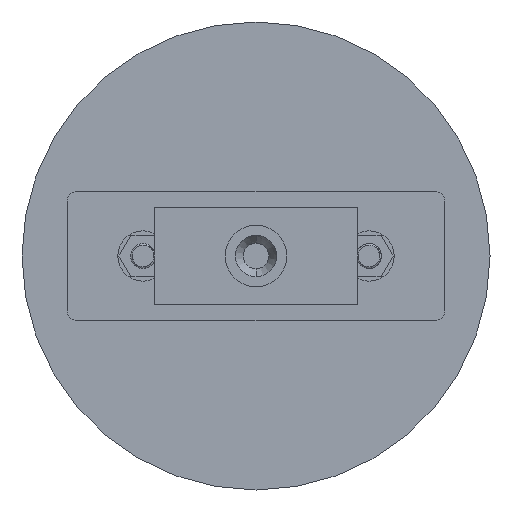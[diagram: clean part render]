
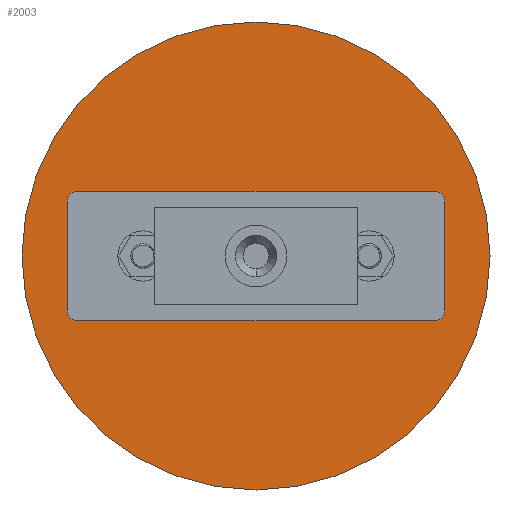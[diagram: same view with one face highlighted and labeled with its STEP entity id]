
A CAD part, front view. The second image highlights one B-rep face of the part: STEP entity #2003.
In plain terms, the highlighted planar face has unit normal (0, -1, 0).
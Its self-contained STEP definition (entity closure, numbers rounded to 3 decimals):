
#123 = CIRCLE ( 'NONE', #10612, 9. ) ;
#161 = DIRECTION ( 'NONE',  ( 0., 0., 1. ) ) ;
#592 = DIRECTION ( 'NONE',  ( 0., 0., 1. ) ) ;
#1090 = CARTESIAN_POINT ( 'NONE',  ( -35., 166.5, -6. ) ) ;
#1117 = PLANE ( 'NONE',  #6519 ) ;
#1668 = VERTEX_POINT ( 'NONE', #2072 ) ;
#1920 = DIRECTION ( 'NONE',  ( 0., -1., 0. ) ) ;
#2003 = ADVANCED_FACE ( 'NONE', ( #18571, #10283, #6165, #2021 ), #1117, .F. ) ;
#2021 = FACE_OUTER_BOUND ( 'NONE', #3116, .T. ) ;
#2072 = CARTESIAN_POINT ( 'NONE',  ( 0., 166.5, 9. ) ) ;
#2094 = CARTESIAN_POINT ( 'NONE',  ( 35., 166.5, 0. ) ) ;
#2337 = AXIS2_PLACEMENT_3D ( 'NONE', #19585, #7072, #11695 ) ;
#2393 = ORIENTED_EDGE ( 'NONE', *, *, #13682, .F. ) ;
#2470 = CIRCLE ( 'NONE', #10351, 9. ) ;
#2562 = AXIS2_PLACEMENT_3D ( 'NONE', #12113, #2815, #13675 ) ;
#2604 = CARTESIAN_POINT ( 'NONE',  ( 0., 166.5, 0. ) ) ;
#2815 = DIRECTION ( 'NONE',  ( 0., -1., 0. ) ) ;
#3116 = EDGE_LOOP ( 'NONE', ( #7854, #2393 ) ) ;
#3262 = EDGE_CURVE ( 'NONE', #5129, #15671, #14647, .T. ) ;
#3358 = DIRECTION ( 'NONE',  ( 0., 0., 1. ) ) ;
#3590 = DIRECTION ( 'NONE',  ( 0., -1., 0. ) ) ;
#3659 = VERTEX_POINT ( 'NONE', #1090 ) ;
#4108 = DIRECTION ( 'NONE',  ( 0., 0., 1. ) ) ;
#4176 = DIRECTION ( 'NONE',  ( 0., 1., 0. ) ) ;
#4408 = ORIENTED_EDGE ( 'NONE', *, *, #6688, .F. ) ;
#4553 = CARTESIAN_POINT ( 'NONE',  ( -35., 166.5, 0. ) ) ;
#4732 = DIRECTION ( 'NONE',  ( 0., 1., 0. ) ) ;
#5129 = VERTEX_POINT ( 'NONE', #16722 ) ;
#5198 = DIRECTION ( 'NONE',  ( 0., 1., 0. ) ) ;
#5369 = EDGE_CURVE ( 'NONE', #11824, #1668, #123, .T. ) ;
#5433 = EDGE_LOOP ( 'NONE', ( #7754, #14500 ) ) ;
#5988 = AXIS2_PLACEMENT_3D ( 'NONE', #7892, #1920, #3358 ) ;
#6165 = FACE_BOUND ( 'NONE', #5433, .T. ) ;
#6519 = AXIS2_PLACEMENT_3D ( 'NONE', #11926, #4176, #4108 ) ;
#6688 = EDGE_CURVE ( 'NONE', #3659, #17231, #11303, .T. ) ;
#6774 = CIRCLE ( 'NONE', #12249, 6. ) ;
#6873 = CIRCLE ( 'NONE', #19207, 72.5 ) ;
#7072 = DIRECTION ( 'NONE',  ( 0., 1., 0. ) ) ;
#7754 = ORIENTED_EDGE ( 'NONE', *, *, #5369, .T. ) ;
#7854 = ORIENTED_EDGE ( 'NONE', *, *, #3262, .F. ) ;
#7892 = CARTESIAN_POINT ( 'NONE',  ( 35., 166.5, 0. ) ) ;
#8917 = CARTESIAN_POINT ( 'NONE',  ( 35., 166.5, -6. ) ) ;
#9597 = CARTESIAN_POINT ( 'NONE',  ( -35., 166.5, 6. ) ) ;
#9652 = CIRCLE ( 'NONE', #5988, 6. ) ;
#10283 = FACE_BOUND ( 'NONE', #12789, .T. ) ;
#10290 = VERTEX_POINT ( 'NONE', #12631 ) ;
#10332 = DIRECTION ( 'NONE',  ( 0., 0., 1. ) ) ;
#10351 = AXIS2_PLACEMENT_3D ( 'NONE', #11529, #5198, #13083 ) ;
#10612 = AXIS2_PLACEMENT_3D ( 'NONE', #12489, #4732, #161 ) ;
#11303 = CIRCLE ( 'NONE', #2562, 6. ) ;
#11529 = CARTESIAN_POINT ( 'NONE',  ( 0., 166.5, 0. ) ) ;
#11695 = DIRECTION ( 'NONE',  ( 0., 0., 1. ) ) ;
#11824 = VERTEX_POINT ( 'NONE', #14383 ) ;
#11926 = CARTESIAN_POINT ( 'NONE',  ( 0., 166.5, 0. ) ) ;
#11978 = DIRECTION ( 'NONE',  ( 0., 1., 0. ) ) ;
#12113 = CARTESIAN_POINT ( 'NONE',  ( -35., 166.5, 0. ) ) ;
#12186 = DIRECTION ( 'NONE',  ( 0., 0., 1. ) ) ;
#12249 = AXIS2_PLACEMENT_3D ( 'NONE', #2094, #3590, #592 ) ;
#12253 = DIRECTION ( 'NONE',  ( 0., -1., 0. ) ) ;
#12489 = CARTESIAN_POINT ( 'NONE',  ( 0., 166.5, 0. ) ) ;
#12631 = CARTESIAN_POINT ( 'NONE',  ( 35., 166.5, 6. ) ) ;
#12789 = EDGE_LOOP ( 'NONE', ( #18481, #17104 ) ) ;
#13083 = DIRECTION ( 'NONE',  ( 0., 0., 1. ) ) ;
#13675 = DIRECTION ( 'NONE',  ( 0., 0., 1. ) ) ;
#13682 = EDGE_CURVE ( 'NONE', #15671, #5129, #6873, .T. ) ;
#14383 = CARTESIAN_POINT ( 'NONE',  ( 0., 166.5, -9. ) ) ;
#14500 = ORIENTED_EDGE ( 'NONE', *, *, #15763, .T. ) ;
#14647 = CIRCLE ( 'NONE', #2337, 72.5 ) ;
#14718 = EDGE_LOOP ( 'NONE', ( #4408, #16567 ) ) ;
#15671 = VERTEX_POINT ( 'NONE', #18867 ) ;
#15763 = EDGE_CURVE ( 'NONE', #1668, #11824, #2470, .T. ) ;
#16447 = VERTEX_POINT ( 'NONE', #8917 ) ;
#16567 = ORIENTED_EDGE ( 'NONE', *, *, #18117, .F. ) ;
#16722 = CARTESIAN_POINT ( 'NONE',  ( 0., 166.5, -72.5 ) ) ;
#16768 = CIRCLE ( 'NONE', #18202, 6. ) ;
#17104 = ORIENTED_EDGE ( 'NONE', *, *, #18765, .F. ) ;
#17231 = VERTEX_POINT ( 'NONE', #9597 ) ;
#18117 = EDGE_CURVE ( 'NONE', #17231, #3659, #16768, .T. ) ;
#18202 = AXIS2_PLACEMENT_3D ( 'NONE', #4553, #12253, #12186 ) ;
#18481 = ORIENTED_EDGE ( 'NONE', *, *, #19969, .F. ) ;
#18571 = FACE_BOUND ( 'NONE', #14718, .T. ) ;
#18765 = EDGE_CURVE ( 'NONE', #10290, #16447, #6774, .T. ) ;
#18867 = CARTESIAN_POINT ( 'NONE',  ( 0., 166.5, 72.5 ) ) ;
#19207 = AXIS2_PLACEMENT_3D ( 'NONE', #2604, #11978, #10332 ) ;
#19585 = CARTESIAN_POINT ( 'NONE',  ( 0., 166.5, 0. ) ) ;
#19969 = EDGE_CURVE ( 'NONE', #16447, #10290, #9652, .T. ) ;
